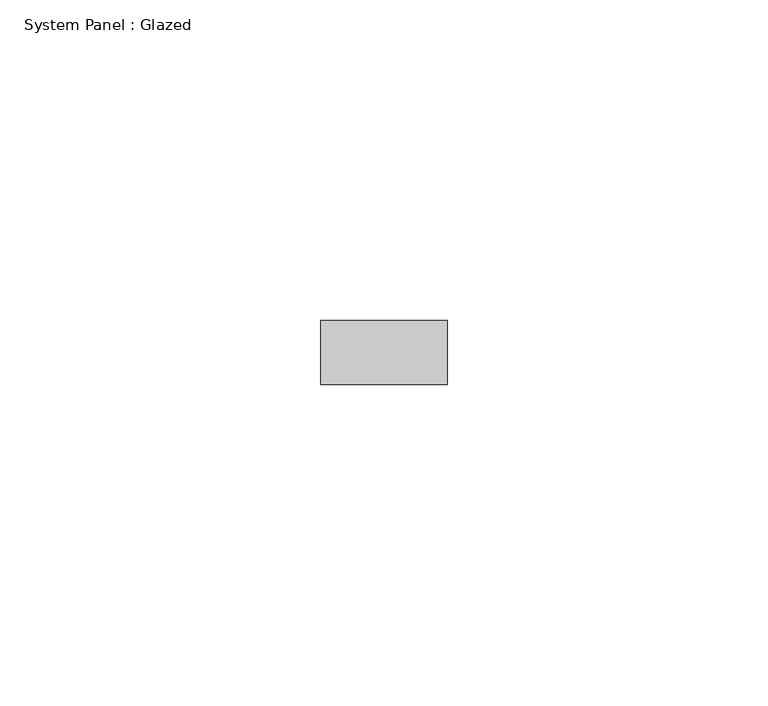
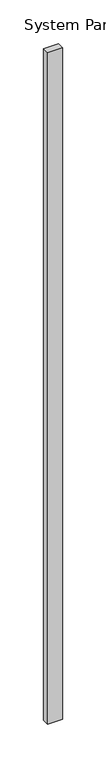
"""IFC4 building model written with IfcOpenShell, lengths in millimetres: plate geometry, System Panel : Glazed."""

from ifc_helpers import new_model, si_unit, origin, origin_with_axes, place, context, project, spatial, polyline, outline, extrude, source, transform, mapped, element, save


def system_panel_glazed_4456bc43(model_context):
    return source(origin(), model_context, "Body", "SweptSolid", [
        extrude(outline(polyline([(9.8819635, -5.0), (-9.8819635, -5.0), (-9.8819635, 5.0), (9.8819635, 5.0), (9.8819635, -5.0)])), origin_with_axes(), (0.0, 0.0, 1.0), 940.0),
    ])


if __name__ == "__main__":
    model = new_model("IFC4")
    model_context = context("Model", 3, world=origin())
    ifc_project = project(units=[si_unit("LENGTHUNIT", "METRE", prefix="MILLI")], contexts=[model_context])
    site = spatial("IfcSite", under=ifc_project)
    building = spatial("IfcBuilding", under=site)
    placement = place(None, origin())
    system_panel_glazed_shape = system_panel_glazed_4456bc43(model_context)
    element("IfcPlate", 1, ObjectType="System Panel : Glazed", at=placement, inside=building, context=model_context, shape_type="MappedRepresentation", body=[
        mapped(system_panel_glazed_shape, transform((0.0, 0.0, 0.0), x_axis=(1.0, 0.0, 0.0), y_axis=(0.0, 1.0, 0.0), z_axis=(0.0, 0.0, 1.0))),
    ])
    save(model, "model.ifc")
